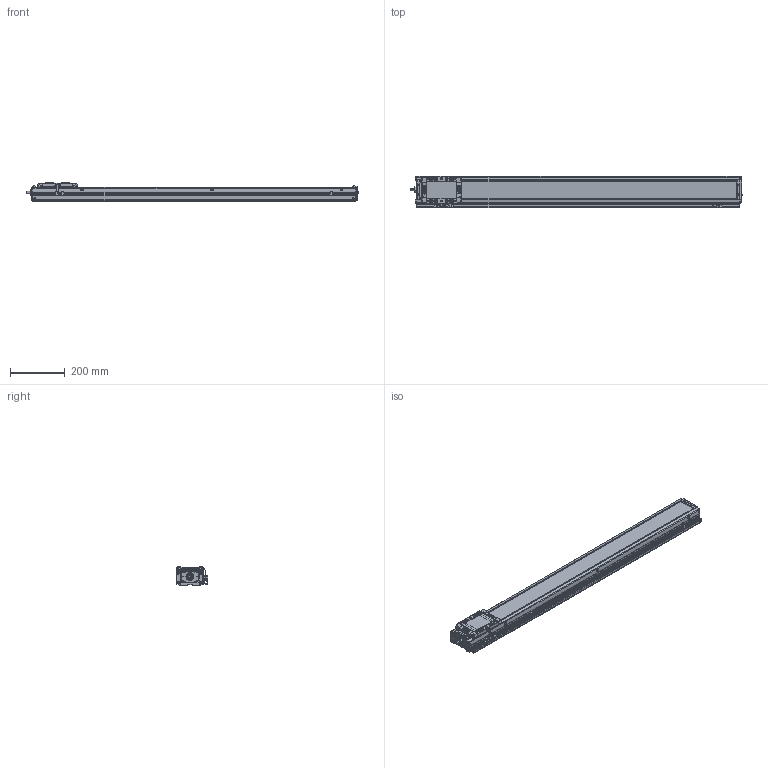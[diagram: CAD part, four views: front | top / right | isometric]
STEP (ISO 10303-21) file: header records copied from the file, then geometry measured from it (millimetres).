
FILE_DESCRIPTION(('STEP AP214'),'1');
FILE_NAME('Z:/Web/3D/SAN100/SAN100 양산용 (STEP)/SAN100ㅁㅁ-1000+3SR.stp','2013-04-30T05:00:30',(' '),(' '),'Spatial InterOp 3D',' ',' ');
FILE_SCHEMA(('automotive_design'));
Length unit declared in the file: millimetre
Products named in the file (54): EE-SX674; SBK-SX674-352; 스크루 : Round - M3.0 x 6.0; M3.0 x 6.0; SRL-16x17-380L; SGD-SAN100; SUS COVER; SFX-SAN100; RRCV-SAN100; 스크루 : Round - M4.0 x 10.0; FRBL-SAN100; SLBL-SAN100; SLCV-SAN100; 스크루 : Countersunk - M3.0 x 6.0; BASE; 스크루 : Round - M5.0 x 6.0; 너트 : Square - M10.0 x 220.7419; RR1500-000L; FRCV-SAN100
Bounding box: 1216 x 116 x 66 mm (x, y, z)
Volume: 3264915.2 mm3; surface area: 898348.2 mm2
Topology: 54 solids, 55 shells, 2609 faces, 6804 edges, 4391 vertices
Faces by surface type: plane 1356, cylinder 905, cone 242, sphere 68, torus 26, bspline 12
Entity records: 103065 total; most frequent: CARTESIAN_POINT 15604, DIRECTION 14291, ORIENTED_EDGE 13396, EDGE_CURVE 6698, AXIS2_PLACEMENT_3D 5099, VERTEX_POINT 4391, LINE 4093, VECTOR 4093
